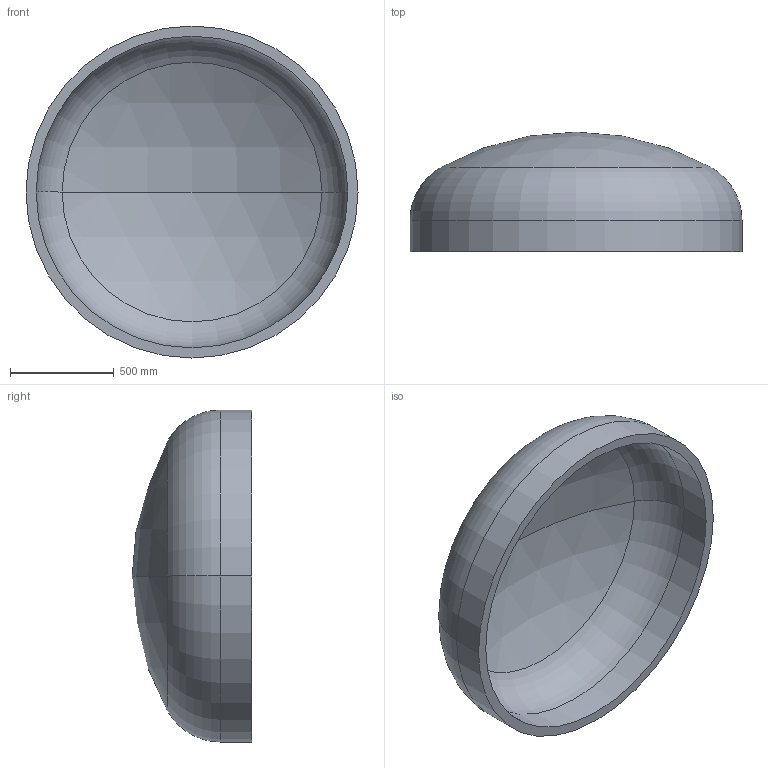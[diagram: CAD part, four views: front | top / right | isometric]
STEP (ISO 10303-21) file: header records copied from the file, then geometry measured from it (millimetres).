
FILE_DESCRIPTION (( 'STEP AP203' ), '1' );
FILE_NAME ('DIN 28013 Korbbogenform_-_Boden DIN 28013 - 1600 x 150 - I - s=49.step', '2016-07-01T11:19:24', ( '' ), ( '' ), 'SwSTEP 2.0', 'SolidWorks 2013', '' );
FILE_SCHEMA (( 'CONFIG_CONTROL_DESIGN' ));
Length unit declared in the file: millimetre
Products named in the file (1): DIN 28013 Korbbogenform_-_Boden DIN 28013 - 1600 x 150 - I - s=49
Bounding box: 1600 x 576.12 x 1600 mm (x, y, z)
Volume: 166764553.6 mm3; surface area: 7050501.1 mm2
Topology: 1 solids, 1 shells, 13 faces, 24 edges, 14 vertices
Faces by surface type: torus 4, cylinder 4, sphere 4, plane 1
Entity records: 407 total; most frequent: DIRECTION 72, CARTESIAN_POINT 52, ORIENTED_EDGE 48, AXIS2_PLACEMENT_3D 34, EDGE_CURVE 24, CIRCLE 20, VERTEX_POINT 14, EDGE_LOOP 14
